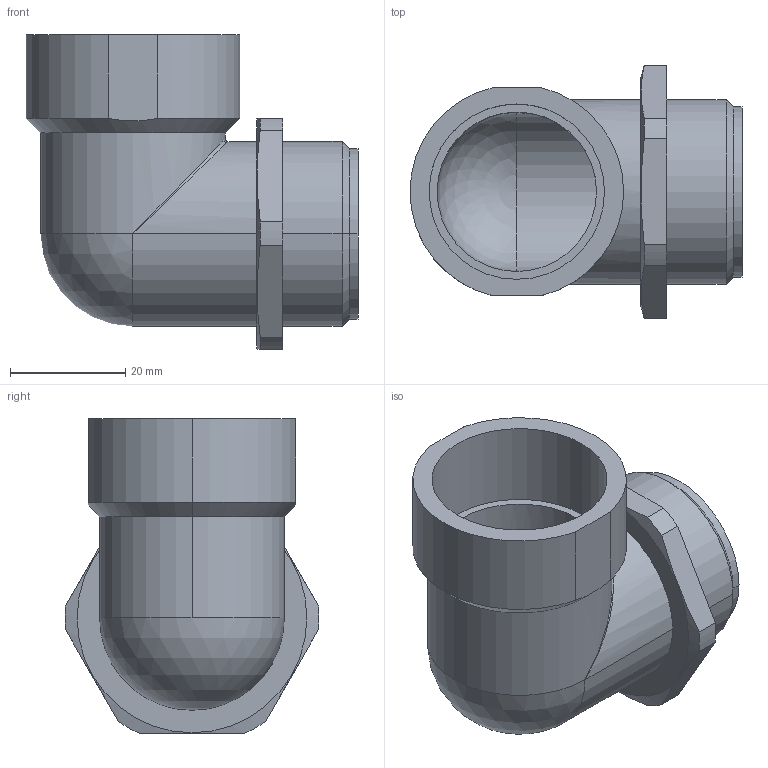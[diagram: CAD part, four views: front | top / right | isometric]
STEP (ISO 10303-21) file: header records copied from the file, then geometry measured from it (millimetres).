
FILE_DESCRIPTION (( 'STEP AP203' ), '1' );
FILE_NAME ('21.632M.STEP', '2006-01-13T13:01:02', ( ' ' ), ( '' ), 'SwSTEP 2.0', 'SolidWorks 2005278', '' );
FILE_SCHEMA (( 'CONFIG_CONTROL_DESIGN' ));
Length unit declared in the file: millimetre
Products named in the file (1): 21.632M
Bounding box: 57.5 x 43.98 x 54.5 mm (x, y, z)
Volume: 19072 mm3; surface area: 15832.4 mm2
Topology: 1 solids, 1 shells, 86 faces, 224 edges, 141 vertices
Faces by surface type: plane 51, cylinder 23, cone 8, sphere 2, bspline 2
Entity records: 3540 total; most frequent: CARTESIAN_POINT 1391, ORIENTED_EDGE 432, DIRECTION 421, EDGE_CURVE 216, VECTOR 149, LINE 149, VERTEX_POINT 139, AXIS2_PLACEMENT_3D 136
